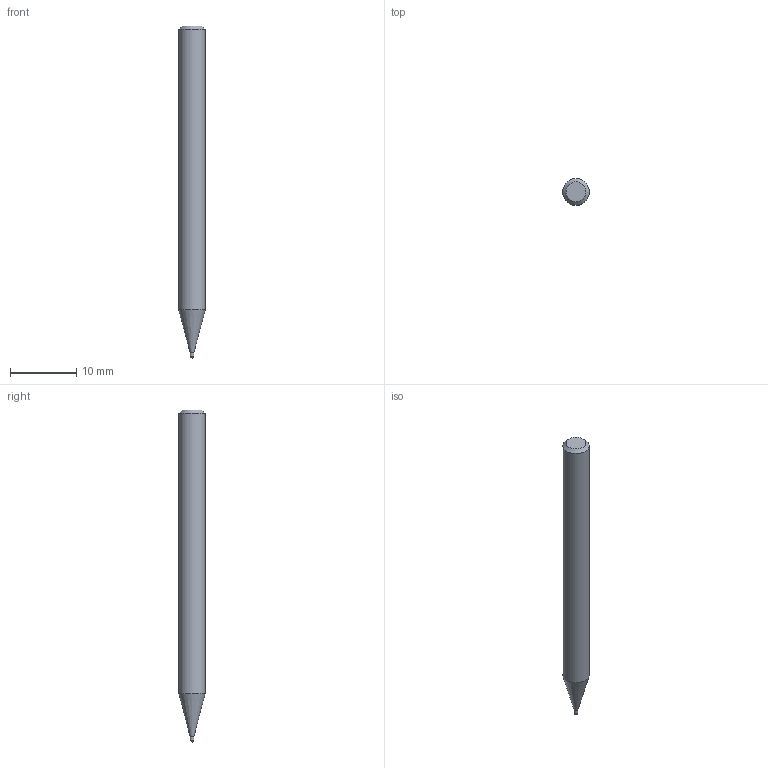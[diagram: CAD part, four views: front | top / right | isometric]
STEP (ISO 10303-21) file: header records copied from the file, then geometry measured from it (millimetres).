
FILE_DESCRIPTION((''),'2;1');
FILE_NAME('C:\Users\nsx150\AppData\Local\Temp\Mastercam 2021\J4S5TCIUH2\TEMP.step','2022-01-25T17:53:43',(''),(''),'STEP Write','Mastercam 2021 ... CNC Software, Inc.','');
FILE_SCHEMA(('AUTOMOTIVE_DESIGN'));
Length unit declared in the file: millimetre
Products named in the file (1): None
Bounding box: 4 x 4 x 50 mm (x, y, z)
Volume: 567.2 mm3; surface area: 595.6 mm2
Topology: 2 solids, 2 shells, 8 faces, 12 edges, 7 vertices
Faces by surface type: plane 3, cylinder 2, cone 2, sphere 1
Full cylindrical faces by diameter (mm): 0.6 x1, 4 x1
Entity records: 190 total; most frequent: DIRECTION 32, CARTESIAN_POINT 22, AXIS2_PLACEMENT_3D 16, ORIENTED_EDGE 12, EDGE_LOOP 12, STYLED_ITEM 11, ADVANCED_FACE 8, VERTEX_POINT 6
